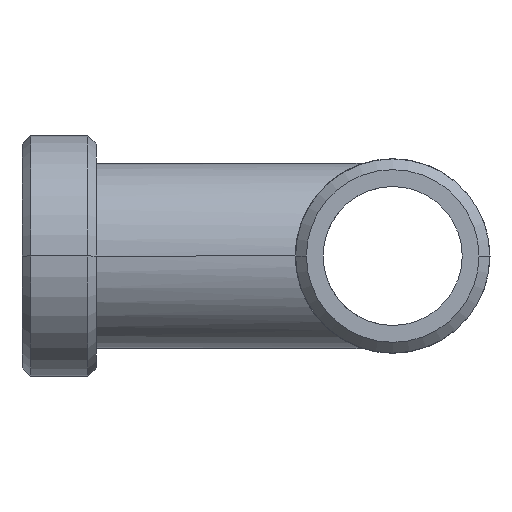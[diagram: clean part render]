
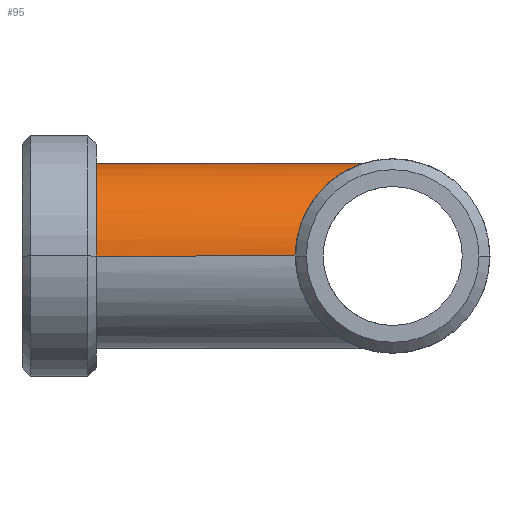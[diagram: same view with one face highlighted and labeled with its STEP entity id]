
A CAD part, left-side view. The second image highlights one B-rep face of the part: STEP entity #95.
In plain terms, the highlighted cylindrical face has radius 10 mm (diameter 20 mm), a partial arc.
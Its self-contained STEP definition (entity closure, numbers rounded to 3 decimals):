
#95 = ADVANCED_FACE( '', ( #150 ), #151, .T. );
#150 = FACE_OUTER_BOUND( '', #219, .T. );
#151 = CYLINDRICAL_SURFACE( '', #220, 10. );
#219 = EDGE_LOOP( '', ( #395, #396, #397, #398, #399 ) );
#220 = AXIS2_PLACEMENT_3D( '', #400, #401, #402 );
#395 = ORIENTED_EDGE( '', *, *, #500, .T. );
#396 = ORIENTED_EDGE( '', *, *, #534, .F. );
#397 = ORIENTED_EDGE( '', *, *, #501, .T. );
#398 = ORIENTED_EDGE( '', *, *, #535, .F. );
#399 = ORIENTED_EDGE( '', *, *, #536, .T. );
#400 = CARTESIAN_POINT( '', ( 0., 16., 0. ) );
#401 = DIRECTION( '', ( 0., -1., 0. ) );
#402 = DIRECTION( '', ( 1., 0., 0. ) );
#500 = EDGE_CURVE( '', #559, #590, #591, .T. );
#501 = EDGE_CURVE( '', #592, #567, #593, .T. );
#534 = EDGE_CURVE( '', #592, #590, #645, .T. );
#535 = EDGE_CURVE( '', #646, #567, #647, .T. );
#536 = EDGE_CURVE( '', #646, #559, #648, .T. );
#559 = VERTEX_POINT( '', #675 );
#567 = VERTEX_POINT( '', #685 );
#590 = VERTEX_POINT( '', #797 );
#591 = LINE( '', #798, #799 );
#592 = VERTEX_POINT( '', #800 );
#593 = LINE( '', #801, #802 );
#645 = CIRCLE( '', #948, 10. );
#646 = VERTEX_POINT( '', #949 );
#647 = B_SPLINE_CURVE_WITH_KNOTS( '', 3, ( #950, #951, #952, #953, #954, #955, #956, #957, #958, #959, #960, #961, #962, #963, #964, #965, #966, #967, #968, #969, #970, #971, #972, #973, #974, #975, #976, #977, #978, #979, #980, #981, #982, #983, #984, #985, #986, #987, #988, #989, #990, #991 ), .UNSPECIFIED., .F., .F., ( 4, 2, 2, 2, 2, 2, 2, 2, 2, 2, 2, 2, 2, 2, 2, 2, 2, 2, 2, 2, 4 ), ( -35.017, -33.851, -32.685, -31.519, -30.353, -28.022, -25.69, -23.645, -21.599, -19.554, -17.508, -15.463, -13.417, -11.372, -9.326, -6.995, -4.663, -3.497, -2.332, -1.166, 0. ), .UNSPECIFIED. );
#648 = B_SPLINE_CURVE_WITH_KNOTS( '', 3, ( #992, #993, #994, #995, #996, #997, #998, #999, #1000, #1001, #1002, #1003, #1004, #1005, #1006, #1007, #1008, #1009, #1010, #1011, #1012, #1013, #1014, #1015, #1016, #1017, #1018, #1019, #1020, #1021, #1022, #1023, #1024, #1025, #1026, #1027, #1028, #1029, #1030, #1031, #1032, #1033 ), .UNSPECIFIED., .F., .F., ( 4, 2, 2, 2, 2, 2, 2, 2, 2, 2, 2, 2, 2, 2, 2, 2, 2, 2, 2, 2, 4 ), ( -35.017, -33.851, -32.685, -31.519, -30.353, -28.022, -25.69, -23.645, -21.599, -19.554, -17.508, -15.463, -13.417, -11.372, -9.326, -6.995, -4.663, -3.497, -2.332, -1.166, 0. ), .UNSPECIFIED. );
#675 = CARTESIAN_POINT( '', ( 10., 10.5, 0. ) );
#685 = CARTESIAN_POINT( '', ( -10., 10.5, 0. ) );
#797 = CARTESIAN_POINT( '', ( 10., 32., 0. ) );
#798 = CARTESIAN_POINT( '', ( 10., 16., 0. ) );
#799 = VECTOR( '', #1082, 1. );
#800 = CARTESIAN_POINT( '', ( -10., 32., 0. ) );
#801 = CARTESIAN_POINT( '', ( -10., 16., 0. ) );
#802 = VECTOR( '', #1083, 1. );
#948 = AXIS2_PLACEMENT_3D( '', #1149, #1150, #1151 );
#949 = CARTESIAN_POINT( '', ( 0., 3.202, 10. ) );
#950 = CARTESIAN_POINT( '', ( 0., 3.202, 10. ) );
#951 = CARTESIAN_POINT( '', ( -0.389, 3.202, 10. ) );
#952 = CARTESIAN_POINT( '', ( -0.744, 3.271, 9.978 ) );
#953 = CARTESIAN_POINT( '', ( -1.421, 3.488, 9.904 ) );
#954 = CARTESIAN_POINT( '', ( -1.742, 3.635, 9.852 ) );
#955 = CARTESIAN_POINT( '', ( -2.369, 3.974, 9.721 ) );
#956 = CARTESIAN_POINT( '', ( -2.675, 4.166, 9.641 ) );
#957 = CARTESIAN_POINT( '', ( -3.276, 4.576, 9.453 ) );
#958 = CARTESIAN_POINT( '', ( -3.573, 4.794, 9.345 ) );
#959 = CARTESIAN_POINT( '', ( -4.452, 5.471, 8.977 ) );
#960 = CARTESIAN_POINT( '', ( -5.022, 5.949, 8.672 ) );
#961 = CARTESIAN_POINT( '', ( -6.1, 6.884, 7.95 ) );
#962 = CARTESIAN_POINT( '', ( -6.609, 7.341, 7.533 ) );
#963 = CARTESIAN_POINT( '', ( -7.476, 8.131, 6.666 ) );
#964 = CARTESIAN_POINT( '', ( -7.871, 8.496, 6.2 ) );
#965 = CARTESIAN_POINT( '', ( -8.588, 9.164, 5.162 ) );
#966 = CARTESIAN_POINT( '', ( -8.91, 9.467, 4.589 ) );
#967 = CARTESIAN_POINT( '', ( -9.44, 9.968, 3.366 ) );
#968 = CARTESIAN_POINT( '', ( -9.649, 10.166, 2.713 ) );
#969 = CARTESIAN_POINT( '', ( -9.929, 10.432, 1.371 ) );
#970 = CARTESIAN_POINT( '', ( -10., 10.5, 0.682 ) );
#971 = CARTESIAN_POINT( '', ( -10., 10.5, -0.682 ) );
#972 = CARTESIAN_POINT( '', ( -9.929, 10.432, -1.371 ) );
#973 = CARTESIAN_POINT( '', ( -9.649, 10.166, -2.713 ) );
#974 = CARTESIAN_POINT( '', ( -9.44, 9.968, -3.366 ) );
#975 = CARTESIAN_POINT( '', ( -8.91, 9.467, -4.589 ) );
#976 = CARTESIAN_POINT( '', ( -8.588, 9.164, -5.162 ) );
#977 = CARTESIAN_POINT( '', ( -7.871, 8.496, -6.2 ) );
#978 = CARTESIAN_POINT( '', ( -7.476, 8.131, -6.666 ) );
#979 = CARTESIAN_POINT( '', ( -6.609, 7.341, -7.533 ) );
#980 = CARTESIAN_POINT( '', ( -6.1, 6.884, -7.95 ) );
#981 = CARTESIAN_POINT( '', ( -5.022, 5.949, -8.672 ) );
#982 = CARTESIAN_POINT( '', ( -4.452, 5.471, -8.977 ) );
#983 = CARTESIAN_POINT( '', ( -3.573, 4.794, -9.345 ) );
#984 = CARTESIAN_POINT( '', ( -3.276, 4.576, -9.453 ) );
#985 = CARTESIAN_POINT( '', ( -2.675, 4.166, -9.641 ) );
#986 = CARTESIAN_POINT( '', ( -2.369, 3.974, -9.721 ) );
#987 = CARTESIAN_POINT( '', ( -1.742, 3.635, -9.852 ) );
#988 = CARTESIAN_POINT( '', ( -1.421, 3.488, -9.904 ) );
#989 = CARTESIAN_POINT( '', ( -0.744, 3.271, -9.978 ) );
#990 = CARTESIAN_POINT( '', ( -0.389, 3.202, -10. ) );
#991 = CARTESIAN_POINT( '', ( 0., 3.202, -10. ) );
#992 = CARTESIAN_POINT( '', ( 0., 3.202, 10. ) );
#993 = CARTESIAN_POINT( '', ( 0.389, 3.202, 10. ) );
#994 = CARTESIAN_POINT( '', ( 0.744, 3.271, 9.978 ) );
#995 = CARTESIAN_POINT( '', ( 1.421, 3.488, 9.904 ) );
#996 = CARTESIAN_POINT( '', ( 1.742, 3.635, 9.852 ) );
#997 = CARTESIAN_POINT( '', ( 2.369, 3.974, 9.721 ) );
#998 = CARTESIAN_POINT( '', ( 2.675, 4.166, 9.641 ) );
#999 = CARTESIAN_POINT( '', ( 3.276, 4.576, 9.453 ) );
#1000 = CARTESIAN_POINT( '', ( 3.573, 4.794, 9.345 ) );
#1001 = CARTESIAN_POINT( '', ( 4.452, 5.471, 8.977 ) );
#1002 = CARTESIAN_POINT( '', ( 5.022, 5.949, 8.672 ) );
#1003 = CARTESIAN_POINT( '', ( 6.1, 6.884, 7.95 ) );
#1004 = CARTESIAN_POINT( '', ( 6.609, 7.341, 7.533 ) );
#1005 = CARTESIAN_POINT( '', ( 7.476, 8.131, 6.666 ) );
#1006 = CARTESIAN_POINT( '', ( 7.871, 8.496, 6.2 ) );
#1007 = CARTESIAN_POINT( '', ( 8.588, 9.164, 5.162 ) );
#1008 = CARTESIAN_POINT( '', ( 8.91, 9.467, 4.589 ) );
#1009 = CARTESIAN_POINT( '', ( 9.44, 9.968, 3.366 ) );
#1010 = CARTESIAN_POINT( '', ( 9.649, 10.166, 2.713 ) );
#1011 = CARTESIAN_POINT( '', ( 9.929, 10.432, 1.371 ) );
#1012 = CARTESIAN_POINT( '', ( 10., 10.5, 0.682 ) );
#1013 = CARTESIAN_POINT( '', ( 10., 10.5, -0.682 ) );
#1014 = CARTESIAN_POINT( '', ( 9.929, 10.432, -1.371 ) );
#1015 = CARTESIAN_POINT( '', ( 9.649, 10.166, -2.713 ) );
#1016 = CARTESIAN_POINT( '', ( 9.44, 9.968, -3.366 ) );
#1017 = CARTESIAN_POINT( '', ( 8.91, 9.467, -4.589 ) );
#1018 = CARTESIAN_POINT( '', ( 8.588, 9.164, -5.162 ) );
#1019 = CARTESIAN_POINT( '', ( 7.871, 8.496, -6.2 ) );
#1020 = CARTESIAN_POINT( '', ( 7.476, 8.131, -6.666 ) );
#1021 = CARTESIAN_POINT( '', ( 6.609, 7.341, -7.533 ) );
#1022 = CARTESIAN_POINT( '', ( 6.1, 6.884, -7.95 ) );
#1023 = CARTESIAN_POINT( '', ( 5.022, 5.949, -8.672 ) );
#1024 = CARTESIAN_POINT( '', ( 4.452, 5.471, -8.977 ) );
#1025 = CARTESIAN_POINT( '', ( 3.573, 4.794, -9.345 ) );
#1026 = CARTESIAN_POINT( '', ( 3.276, 4.576, -9.453 ) );
#1027 = CARTESIAN_POINT( '', ( 2.675, 4.166, -9.641 ) );
#1028 = CARTESIAN_POINT( '', ( 2.369, 3.974, -9.721 ) );
#1029 = CARTESIAN_POINT( '', ( 1.742, 3.635, -9.852 ) );
#1030 = CARTESIAN_POINT( '', ( 1.421, 3.488, -9.904 ) );
#1031 = CARTESIAN_POINT( '', ( 0.744, 3.271, -9.978 ) );
#1032 = CARTESIAN_POINT( '', ( 0.389, 3.202, -10. ) );
#1033 = CARTESIAN_POINT( '', ( 0., 3.202, -10. ) );
#1082 = DIRECTION( '', ( 0., 1., 0. ) );
#1083 = DIRECTION( '', ( 0., -1., 0. ) );
#1149 = CARTESIAN_POINT( '', ( 0., 32., 0. ) );
#1150 = DIRECTION( '', ( 0., 1., 0. ) );
#1151 = DIRECTION( '', ( 1., 0., 0. ) );
